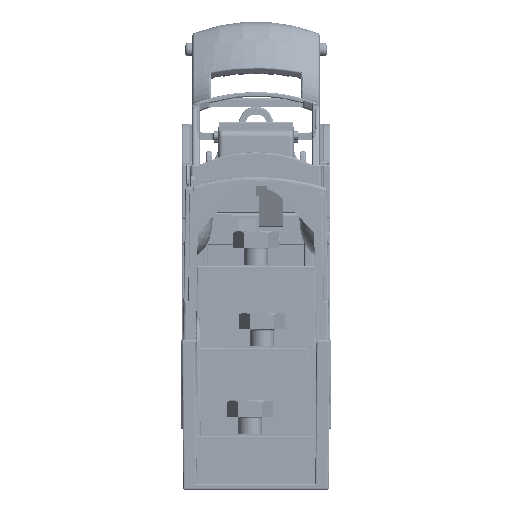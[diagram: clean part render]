
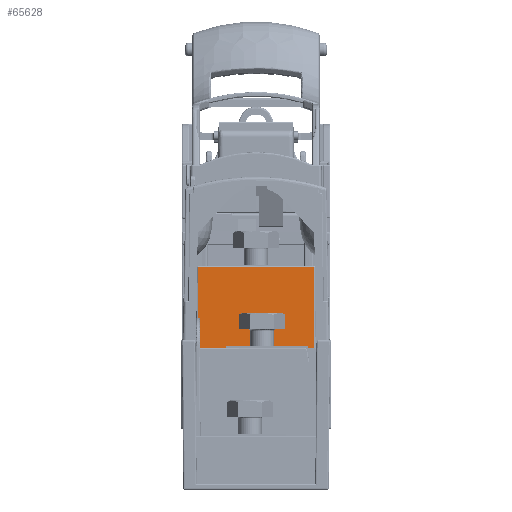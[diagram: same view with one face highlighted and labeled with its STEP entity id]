
A CAD part, left-side view. The second image highlights one B-rep face of the part: STEP entity #65628.
In plain terms, the highlighted planar face has unit normal (-1, 0, 0.009).
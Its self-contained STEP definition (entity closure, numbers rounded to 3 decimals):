
#19429 = VECTOR ( 'NONE', #507078, 1000. ) ;
#19955 = CARTESIAN_POINT ( 'NONE',  ( -84.513, -2., 26.5 ) ) ;
#19964 = CARTESIAN_POINT ( 'NONE',  ( -84.513, -2.02, 26.5 ) ) ;
#19991 = CARTESIAN_POINT ( 'NONE',  ( -84.513, -2.041, 26.5 ) ) ;
#19995 = CARTESIAN_POINT ( 'NONE',  ( -84.513, -2.061, 26.5 ) ) ;
#28460 = AXIS2_PLACEMENT_3D ( 'NONE', #360143, #360144, #360148 ) ;
#60811 = VERTEX_POINT ( 'NONE', #82778 ) ;
#60895 = VERTEX_POINT ( 'NONE', #83948 ) ;
#60930 = VERTEX_POINT ( 'NONE', #84473 ) ;
#60978 = VERTEX_POINT ( 'NONE', #85287 ) ;
#65628 = ADVANCED_FACE ( 'NONE', ( #360018 ), #360044, .T. ) ;
#82778 = CARTESIAN_POINT ( 'NONE',  ( -84.513, 4.4, 26.5 ) ) ;
#83948 = CARTESIAN_POINT ( 'NONE',  ( -84.413, 19.235, 38. ) ) ;
#84473 = CARTESIAN_POINT ( 'NONE',  ( -84.413, 18.938, 38. ) ) ;
#85287 = CARTESIAN_POINT ( 'NONE',  ( -84.5, 4.413, 28. ) ) ;
#110711 = VERTEX_POINT ( 'NONE', #270385 ) ;
#110816 = VERTEX_POINT ( 'NONE', #271165 ) ;
#110857 = VERTEX_POINT ( 'NONE', #271467 ) ;
#113098 = EDGE_CURVE ( 'NONE', #328091, #483438, #214735, .T. ) ;
#156091 = VERTEX_POINT ( 'NONE', #239098 ) ;
#156114 = VERTEX_POINT ( 'NONE', #239131 ) ;
#156204 = VERTEX_POINT ( 'NONE', #239293 ) ;
#156209 = VERTEX_POINT ( 'NONE', #239282 ) ;
#214735 = B_SPLINE_CURVE_WITH_KNOTS ( 'NONE', 3,
 ( #331211, #331209, #331207, #331215 ),
 .UNSPECIFIED., .F., .F.,
 ( 4, 4 ),
 ( 0., 0. ),
 .UNSPECIFIED. ) ;
#214935 = B_SPLINE_CURVE_WITH_KNOTS ( 'NONE', 3,
 ( #19955, #19964, #19991, #19995 ),
 .UNSPECIFIED., .F., .F.,
 ( 4, 4 ),
 ( 0., 0. ),
 .UNSPECIFIED. ) ;
#239098 = CARTESIAN_POINT ( 'NONE',  ( -84.5, -18.831, 28. ) ) ;
#239131 = CARTESIAN_POINT ( 'NONE',  ( -84.501, -19.323, 27.87 ) ) ;
#239282 = CARTESIAN_POINT ( 'NONE',  ( -84.5, 18.553, 28. ) ) ;
#239293 = CARTESIAN_POINT ( 'NONE',  ( -84.415, 18.638, 37.703 ) ) ;
#241418 =( BOUNDED_CURVE ( )  B_SPLINE_CURVE ( 3, ( #451782, #451799, #451802, #451805 ),
 .UNSPECIFIED., .F., .T. ) 
 B_SPLINE_CURVE_WITH_KNOTS ( ( 4, 4 ),
 ( 3.142, 3.657 ),
 .UNSPECIFIED. ) 
 CURVE ( )  GEOMETRIC_REPRESENTATION_ITEM ( )  RATIONAL_B_SPLINE_CURVE ( ( 1., 0.978, 0.978, 1. ) ) 
 REPRESENTATION_ITEM ( '' )  );
#241493 =( BOUNDED_CURVE ( )  B_SPLINE_CURVE ( 3, ( #452705, #452712, #452717, #452721 ),
 .UNSPECIFIED., .F., .T. ) 
 B_SPLINE_CURVE_WITH_KNOTS ( ( 4, 4 ),
 ( 4.721, 6.283 ),
 .UNSPECIFIED. ) 
 CURVE ( )  GEOMETRIC_REPRESENTATION_ITEM ( )  RATIONAL_B_SPLINE_CURVE ( ( 1., 0.807, 0.807, 1. ) ) 
 REPRESENTATION_ITEM ( '' )  );
#270385 = CARTESIAN_POINT ( 'NONE',  ( -84.5, -8.413, 28. ) ) ;
#271165 = CARTESIAN_POINT ( 'NONE',  ( -84.513, -8.4, 26.5 ) ) ;
#271467 = CARTESIAN_POINT ( 'NONE',  ( -84.267, -19.089, 54.703 ) ) ;
#271547 = CARTESIAN_POINT ( 'NONE',  ( -84.267, 19.089, 54.703 ) ) ;
#271573 = CARTESIAN_POINT ( 'NONE',  ( -84.513, -1.939, 26.5 ) ) ;
#328011 = VERTEX_POINT ( 'NONE', #271547 ) ;
#328091 = VERTEX_POINT ( 'NONE', #271573 ) ;
#331207 = CARTESIAN_POINT ( 'NONE',  ( -84.513, -1.98, 26.5 ) ) ;
#331209 = CARTESIAN_POINT ( 'NONE',  ( -84.513, -1.959, 26.5 ) ) ;
#331211 = CARTESIAN_POINT ( 'NONE',  ( -84.513, -1.939, 26.5 ) ) ;
#331215 = CARTESIAN_POINT ( 'NONE',  ( -84.513, -2., 26.5 ) ) ;
#343787 = EDGE_LOOP ( 'NONE', ( #382103, #382105, #382107, #382109, #382111, #382113, #382114, #382115, #382117, #382118, #382119, #382121, #382122, #382123, #382125 ) ) ;
#352125 = CARTESIAN_POINT ( 'NONE',  ( -84.513, -2., 26.5 ) ) ;
#360018 = FACE_OUTER_BOUND ( 'NONE', #343787, .T. ) ;
#360044 = PLANE ( 'NONE',  #28460 ) ;
#360143 = CARTESIAN_POINT ( 'NONE',  ( -84.5, 19.8, 28. ) ) ;
#360144 = DIRECTION ( 'NONE',  ( -1., 0., 0.009 ) ) ;
#360148 = DIRECTION ( 'NONE',  ( 0.009, 0., 1. ) ) ;
#382103 = ORIENTED_EDGE ( 'NONE', *, *, #403801, .T. ) ;
#382105 = ORIENTED_EDGE ( 'NONE', *, *, #463045, .T. ) ;
#382107 = ORIENTED_EDGE ( 'NONE', *, *, #409070, .F. ) ;
#382109 = ORIENTED_EDGE ( 'NONE', *, *, #463026, .T. ) ;
#382111 = ORIENTED_EDGE ( 'NONE', *, *, #463125, .T. ) ;
#382113 = ORIENTED_EDGE ( 'NONE', *, *, #463116, .T. ) ;
#382114 = ORIENTED_EDGE ( 'NONE', *, *, #461949, .T. ) ;
#382115 = ORIENTED_EDGE ( 'NONE', *, *, #461955, .T. ) ;
#382117 = ORIENTED_EDGE ( 'NONE', *, *, #461982, .T. ) ;
#382118 = ORIENTED_EDGE ( 'NONE', *, *, #463411, .F. ) ;
#382119 = ORIENTED_EDGE ( 'NONE', *, *, #463415, .F. ) ;
#382121 = ORIENTED_EDGE ( 'NONE', *, *, #463418, .T. ) ;
#382122 = ORIENTED_EDGE ( 'NONE', *, *, #462005, .T. ) ;
#382123 = ORIENTED_EDGE ( 'NONE', *, *, #461976, .T. ) ;
#382125 = ORIENTED_EDGE ( 'NONE', *, *, #113098, .T. ) ;
#403801 = EDGE_CURVE ( 'NONE', #483438, #483522, #214935, .T. ) ;
#409070 = EDGE_CURVE ( 'NONE', #110711, #110816, #506956, .T. ) ;
#415626 = CARTESIAN_POINT ( 'NONE',  ( -84.513, -2.061, 26.5 ) ) ;
#429444 = LINE ( 'NONE', #429481, #430713 ) ;
#429446 = CARTESIAN_POINT ( 'NONE',  ( -84.267, 19.089, 54.703 ) ) ;
#429473 = LINE ( 'NONE', #429446, #430731 ) ;
#429481 = CARTESIAN_POINT ( 'NONE',  ( -84.267, 19.8, 54.703 ) ) ;
#429493 = DIRECTION ( 'NONE',  ( 0., 1., 0. ) ) ;
#429507 = DIRECTION ( 'NONE',  ( -0.009, 0.009, -1. ) ) ;
#429557 = CARTESIAN_POINT ( 'NONE',  ( -84.413, 19.8, 38. ) ) ;
#429569 = LINE ( 'NONE', #429572, #430752 ) ;
#429572 = CARTESIAN_POINT ( 'NONE',  ( -84.513, 19.8, 26.5 ) ) ;
#429585 = LINE ( 'NONE', #429557, #430742 ) ;
#429589 = DIRECTION ( 'NONE',  ( 0., -1., 0. ) ) ;
#429618 = DIRECTION ( 'NONE',  ( 0., -1., 0. ) ) ;
#430713 = VECTOR ( 'NONE', #429493, 1000. ) ;
#430731 = VECTOR ( 'NONE', #429507, 1000. ) ;
#430742 = VECTOR ( 'NONE', #429618, 1000. ) ;
#430752 = VECTOR ( 'NONE', #429589, 1000. ) ;
#430778 = VECTOR ( 'NONE', #433154, 1000. ) ;
#431429 = VECTOR ( 'NONE', #437319, 1000. ) ;
#431445 = VECTOR ( 'NONE', #437404, 1000. ) ;
#431473 = VECTOR ( 'NONE', #451777, 1000. ) ;
#431612 = VECTOR ( 'NONE', #452738, 1000. ) ;
#431615 = VECTOR ( 'NONE', #452754, 1000. ) ;
#433124 = LINE ( 'NONE', #433144, #430778 ) ;
#433144 = CARTESIAN_POINT ( 'NONE',  ( -84.5, 4.413, 28. ) ) ;
#433154 = DIRECTION ( 'NONE',  ( -0.009, -0.009, -1. ) ) ;
#437280 = CARTESIAN_POINT ( 'NONE',  ( -84.5, 19.8, 28. ) ) ;
#437299 = LINE ( 'NONE', #437280, #431429 ) ;
#437319 = DIRECTION ( 'NONE',  ( 0., -1., 0. ) ) ;
#437363 = LINE ( 'NONE', #437389, #431445 ) ;
#437389 = CARTESIAN_POINT ( 'NONE',  ( -84.513, 19.8, 26.5 ) ) ;
#437404 = DIRECTION ( 'NONE',  ( 0., -1., 0. ) ) ;
#437583 = LINE ( 'NONE', #451771, #431473 ) ;
#451771 = CARTESIAN_POINT ( 'NONE',  ( -84.501, -19.323, 27.87 ) ) ;
#451777 = DIRECTION ( 'NONE',  ( 0.009, 0.009, 1. ) ) ;
#451782 = CARTESIAN_POINT ( 'NONE',  ( -84.5, -18.831, 28. ) ) ;
#451799 = CARTESIAN_POINT ( 'NONE',  ( -84.5, -19.004, 28. ) ) ;
#451802 = CARTESIAN_POINT ( 'NONE',  ( -84.5, -19.172, 27.956 ) ) ;
#451805 = CARTESIAN_POINT ( 'NONE',  ( -84.501, -19.323, 27.87 ) ) ;
#452652 = LINE ( 'NONE', #452676, #431615 ) ;
#452676 = CARTESIAN_POINT ( 'NONE',  ( -84.5, 19.8, 28. ) ) ;
#452705 = CARTESIAN_POINT ( 'NONE',  ( -84.415, 18.638, 37.703 ) ) ;
#452708 = LINE ( 'NONE', #452726, #431612 ) ;
#452712 = CARTESIAN_POINT ( 'NONE',  ( -84.414, 18.639, 37.877 ) ) ;
#452717 = CARTESIAN_POINT ( 'NONE',  ( -84.413, 18.763, 38. ) ) ;
#452721 = CARTESIAN_POINT ( 'NONE',  ( -84.413, 18.938, 38. ) ) ;
#452726 = CARTESIAN_POINT ( 'NONE',  ( -84.5, 18.553, 28. ) ) ;
#452738 = DIRECTION ( 'NONE',  ( 0.009, 0.009, 1. ) ) ;
#452754 = DIRECTION ( 'NONE',  ( 0., -1., 0. ) ) ;
#461949 = EDGE_CURVE ( 'NONE', #110857, #328011, #429444, .T. ) ;
#461955 = EDGE_CURVE ( 'NONE', #328011, #60895, #429473, .T. ) ;
#461976 = EDGE_CURVE ( 'NONE', #60811, #328091, #429569, .T. ) ;
#461982 = EDGE_CURVE ( 'NONE', #60895, #60930, #429585, .T. ) ;
#462005 = EDGE_CURVE ( 'NONE', #60978, #60811, #433124, .T. ) ;
#463026 = EDGE_CURVE ( 'NONE', #110711, #156091, #437299, .T. ) ;
#463045 = EDGE_CURVE ( 'NONE', #483522, #110816, #437363, .T. ) ;
#463116 = EDGE_CURVE ( 'NONE', #156114, #110857, #437583, .T. ) ;
#463125 = EDGE_CURVE ( 'NONE', #156091, #156114, #241418, .T. ) ;
#463411 = EDGE_CURVE ( 'NONE', #156204, #60930, #241493, .T. ) ;
#463415 = EDGE_CURVE ( 'NONE', #156209, #156204, #452708, .T. ) ;
#463418 = EDGE_CURVE ( 'NONE', #156209, #60978, #452652, .T. ) ;
#483438 = VERTEX_POINT ( 'NONE', #352125 ) ;
#483522 = VERTEX_POINT ( 'NONE', #415626 ) ;
#506956 = LINE ( 'NONE', #507066, #19429 ) ;
#507066 = CARTESIAN_POINT ( 'NONE',  ( -84.5, -8.413, 28. ) ) ;
#507078 = DIRECTION ( 'NONE',  ( -0.009, 0.009, -1. ) ) ;
